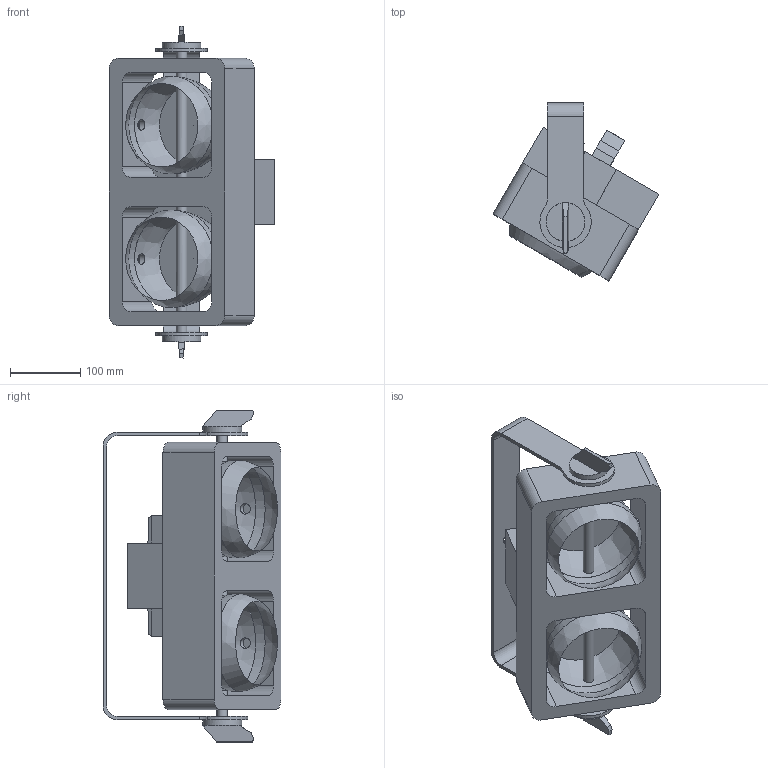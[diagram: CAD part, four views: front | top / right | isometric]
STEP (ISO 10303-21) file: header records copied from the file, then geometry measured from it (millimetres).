
FILE_DESCRIPTION(/* description */ (''),/* implementation_level */ '2;1');
FILE_NAME(/* name */ 'D:/dgooch/Documents/CADENG/PRO/Strike Array 2/30/3D/Strike Array 2_30.step',/* time_stamp */ '2020-01-20T11:09:36-05:00',/* author */ (''),/* organization */ (''),/* preprocessor_version */ 'ST-DEVELOPER v18',/* originating_system */ 'Autodesk Translation Framework v8.12.0.6',/* authorisation */ '');
FILE_SCHEMA (('AUTOMOTIVE_DESIGN { 1 0 10303 214 3 1 1 }'));
Length unit declared in the file: millimetre
Products named in the file (3): Strike Array 2; Bracket; Head
Assembly tree (2 placements, depth 2):
  Strike Array 2
    Bracket
    Head
Bounding box: 235.77 x 252.94 x 472.17 mm (x, y, z)
Volume: 6489425.6 mm3; surface area: 581132.3 mm2
Topology: 2 solids, 2 shells, 124 faces, 356 edges, 238 vertices
Faces by surface type: plane 78, cylinder 36, bspline 6, cone 4
Full cylindrical faces by diameter (mm): 13 x2, 15 x10, 55 x2
Entity records: 5119 total; most frequent: CARTESIAN_POINT 1723, ORIENTED_EDGE 704, DIRECTION 668, EDGE_CURVE 352, VERTEX_POINT 238, LINE 234, VECTOR 234, AXIS2_PLACEMENT_3D 217
